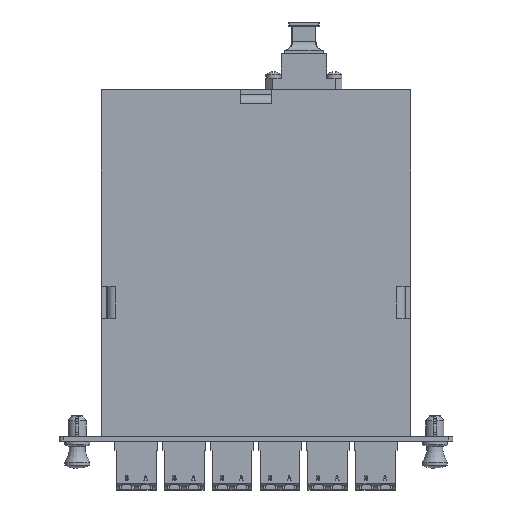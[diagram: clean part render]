
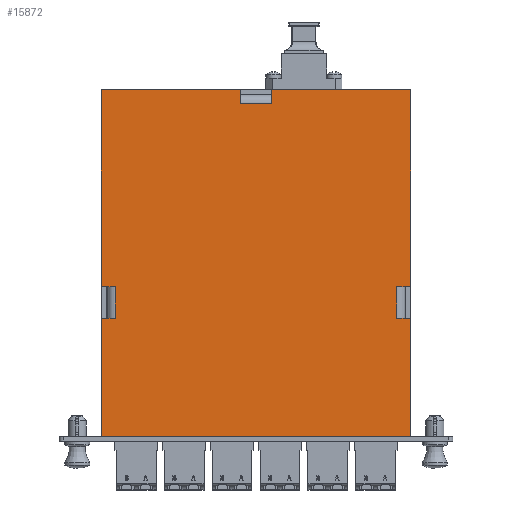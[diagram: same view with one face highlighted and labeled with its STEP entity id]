
A CAD part, top view. The second image highlights one B-rep face of the part: STEP entity #15872.
In plain terms, the highlighted planar face has unit normal (0, 0, 1).
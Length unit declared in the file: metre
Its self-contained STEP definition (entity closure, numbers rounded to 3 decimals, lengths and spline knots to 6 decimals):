
#4077=ORIENTED_EDGE('',*,*,#6969,.F.);
#4078=ORIENTED_EDGE('',*,*,#6966,.F.);
#4079=ORIENTED_EDGE('',*,*,#6935,.T.);
#4080=ORIENTED_EDGE('',*,*,#6984,.F.);
#4081=ORIENTED_EDGE('',*,*,#6965,.F.);
#4082=ORIENTED_EDGE('',*,*,#6960,.F.);
#4083=ORIENTED_EDGE('',*,*,#6957,.T.);
#4084=ORIENTED_EDGE('',*,*,#6954,.T.);
#4085=ORIENTED_EDGE('',*,*,#6985,.T.);
#4086=ORIENTED_EDGE('',*,*,#6941,.F.);
#4087=ORIENTED_EDGE('',*,*,#6951,.T.);
#4088=ORIENTED_EDGE('',*,*,#6948,.F.);
#4089=ORIENTED_EDGE('',*,*,#6945,.F.);
#4090=ORIENTED_EDGE('',*,*,#6939,.T.);
#4091=ORIENTED_EDGE('',*,*,#6986,.F.);
#4092=ORIENTED_EDGE('',*,*,#6974,.F.);
#6935=EDGE_CURVE('',#8660,#8659,#10327,.F.);
#6939=EDGE_CURVE('',#8664,#8663,#10330,.F.);
#6941=EDGE_CURVE('',#8665,#8666,#10332,.F.);
#6945=EDGE_CURVE('',#8664,#8669,#10335,.T.);
#6948=EDGE_CURVE('',#8669,#8671,#10338,.T.);
#6951=EDGE_CURVE('',#8665,#8671,#10341,.T.);
#6954=EDGE_CURVE('',#8675,#8673,#10343,.F.);
#6957=EDGE_CURVE('',#8677,#8675,#10346,.T.);
#6960=EDGE_CURVE('',#8677,#8679,#10349,.T.);
#6965=EDGE_CURVE('',#8679,#8682,#10353,.F.);
#6966=EDGE_CURVE('',#8660,#8683,#10354,.T.);
#6969=EDGE_CURVE('',#8683,#8685,#10357,.T.);
#6974=EDGE_CURVE('',#8685,#8688,#10361,.F.);
#6984=EDGE_CURVE('',#8682,#8659,#10371,.T.);
#6985=EDGE_CURVE('',#8673,#8666,#10372,.F.);
#6986=EDGE_CURVE('',#8688,#8663,#10373,.T.);
#8659=VERTEX_POINT('',#25972);
#8660=VERTEX_POINT('',#25974);
#8663=VERTEX_POINT('',#25981);
#8664=VERTEX_POINT('',#25983);
#8665=VERTEX_POINT('',#25987);
#8666=VERTEX_POINT('',#25988);
#8669=VERTEX_POINT('',#25996);
#8671=VERTEX_POINT('',#26002);
#8673=VERTEX_POINT('',#26011);
#8675=VERTEX_POINT('',#26014);
#8677=VERTEX_POINT('',#26020);
#8679=VERTEX_POINT('',#26026);
#8682=VERTEX_POINT('',#26033);
#8683=VERTEX_POINT('',#26038);
#8685=VERTEX_POINT('',#26044);
#8688=VERTEX_POINT('',#26051);
#10327=LINE('',#25973,#12066);
#10330=LINE('',#25982,#12069);
#10332=LINE('',#25986,#12071);
#10335=LINE('',#25995,#12074);
#10338=LINE('',#26001,#12077);
#10341=LINE('',#26007,#12080);
#10343=LINE('',#26013,#12082);
#10346=LINE('',#26019,#12085);
#10349=LINE('',#26025,#12088);
#10353=LINE('',#26035,#12092);
#10354=LINE('',#26037,#12093);
#10357=LINE('',#26043,#12096);
#10361=LINE('',#26053,#12100);
#10371=LINE('',#26071,#12110);
#10372=LINE('',#26072,#12111);
#10373=LINE('',#26073,#12112);
#12066=VECTOR('',#20653,1.);
#12069=VECTOR('',#20660,1.);
#12071=VECTOR('',#20664,1.);
#12074=VECTOR('',#20671,1.);
#12077=VECTOR('',#20676,1.);
#12080=VECTOR('',#20681,1.);
#12082=VECTOR('',#20687,1.);
#12085=VECTOR('',#20692,1.);
#12088=VECTOR('',#20697,1.);
#12092=VECTOR('',#20705,1.);
#12093=VECTOR('',#20708,1.);
#12096=VECTOR('',#20713,1.);
#12100=VECTOR('',#20721,1.);
#12110=VECTOR('',#20735,1.);
#12111=VECTOR('',#20736,1.);
#12112=VECTOR('',#20737,1.);
#13302=EDGE_LOOP('',(#4077,#4078,#4079,#4080,#4081,#4082,#4083,#4084,#4085,
#4086,#4087,#4088,#4089,#4090,#4091,#4092));
#14319=FACE_BOUND('',#13302,.T.);
#15090=PLANE('',#17413);
#15872=ADVANCED_FACE('',(#14319),#15090,.F.);
#17413=AXIS2_PLACEMENT_3D('',#26070,#20733,#20734);
#20653=DIRECTION('',(0.,1.,0.));
#20660=DIRECTION('',(1.,0.,0.));
#20664=DIRECTION('',(-1.,0.,0.));
#20671=DIRECTION('',(0.,-1.,0.));
#20676=DIRECTION('',(-1.,0.,0.));
#20681=DIRECTION('',(0.,-1.,0.));
#20687=DIRECTION('',(-1.,0.,0.));
#20692=DIRECTION('',(0.,-1.,0.));
#20697=DIRECTION('',(1.,0.,0.));
#20705=DIRECTION('',(0.,1.,0.));
#20708=DIRECTION('',(1.,0.,0.));
#20713=DIRECTION('',(0.,-1.,0.));
#20721=DIRECTION('',(1.,0.,0.));
#20733=DIRECTION('',(0.,0.,-1.));
#20734=DIRECTION('',(-1.,0.,0.));
#20735=DIRECTION('',(1.,0.,0.));
#20736=DIRECTION('',(0.,1.,0.));
#20737=DIRECTION('',(0.,-1.,0.));
#25972=CARTESIAN_POINT('',(0.00525,0.0534,0.0285));
#25973=CARTESIAN_POINT('',(0.00525,0.058002,0.0285));
#25974=CARTESIAN_POINT('',(0.00525,0.058,0.0285));
#25981=CARTESIAN_POINT('',(0.0464,-0.0175,0.0285));
#25982=CARTESIAN_POINT('',(0.002135,-0.0175,0.0285));
#25983=CARTESIAN_POINT('',(0.051,-0.0175,0.0285));
#25986=CARTESIAN_POINT('',(-0.051,-0.0175,0.0285));
#25987=CARTESIAN_POINT('',(-0.051,-0.0175,0.0285));
#25988=CARTESIAN_POINT('',(-0.0464,-0.0175,0.0285));
#25995=CARTESIAN_POINT('',(0.051,0.058002,0.0285));
#25996=CARTESIAN_POINT('',(0.051,-0.0565,0.0285));
#26001=CARTESIAN_POINT('',(0.002135,-0.0565,0.0285));
#26002=CARTESIAN_POINT('',(-0.051,-0.0565,0.0285));
#26007=CARTESIAN_POINT('',(-0.051,0.058002,0.0285));
#26011=CARTESIAN_POINT('',(-0.0464,-0.007,0.0285));
#26013=CARTESIAN_POINT('',(0.002135,-0.007,0.0285));
#26014=CARTESIAN_POINT('',(-0.051,-0.007,0.0285));
#26019=CARTESIAN_POINT('',(-0.051,0.058002,0.0285));
#26020=CARTESIAN_POINT('',(-0.051,0.058,0.0285));
#26025=CARTESIAN_POINT('',(0.002135,0.058,0.0285));
#26026=CARTESIAN_POINT('',(-0.00525,0.058,0.0285));
#26033=CARTESIAN_POINT('',(-0.00525,0.0534,0.0285));
#26035=CARTESIAN_POINT('',(-0.00525,0.058,0.0285));
#26037=CARTESIAN_POINT('',(0.002135,0.058,0.0285));
#26038=CARTESIAN_POINT('',(0.051,0.058,0.0285));
#26043=CARTESIAN_POINT('',(0.051,0.058002,0.0285));
#26044=CARTESIAN_POINT('',(0.051,-0.007,0.0285));
#26051=CARTESIAN_POINT('',(0.0464,-0.007,0.0285));
#26053=CARTESIAN_POINT('',(0.051,-0.007,0.0285));
#26070=CARTESIAN_POINT('',(0.002135,0.058002,0.0285));
#26071=CARTESIAN_POINT('',(0.002135,0.0534,0.0285));
#26072=CARTESIAN_POINT('',(-0.0464,0.058002,0.0285));
#26073=CARTESIAN_POINT('',(0.0464,0.058002,0.0285));
